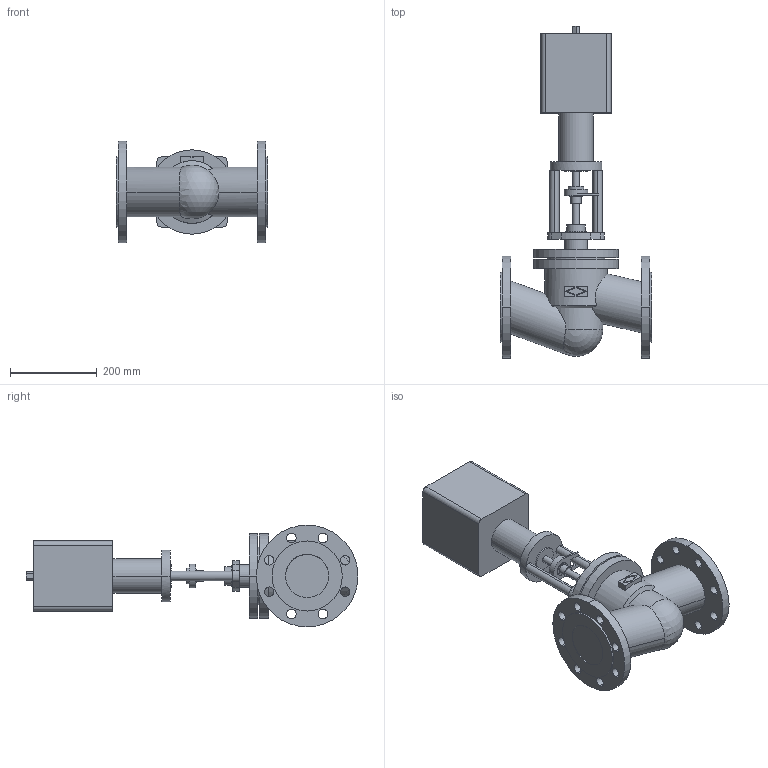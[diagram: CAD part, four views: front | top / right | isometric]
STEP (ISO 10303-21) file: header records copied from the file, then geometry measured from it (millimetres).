
FILE_DESCRIPTION( ( '' ), '1' );
FILE_NAME( 'F:/DE-SHS/TB/OR/04-Sonstiges/daten/files_3d/c000000781.stp', '2014-11-04T12:59:54', ( '' ), ( '' ), ' ', ' ', ' ' );
FILE_SCHEMA( ( 'CONFIG_CONTROL_DESIGN' ) );
Length unit declared in the file: millimetre
Products named in the file (2): 1; 2
Bounding box: 350 x 767.5 x 235 mm (x, y, z)
Volume: 13600987.4 mm3; surface area: 710192.9 mm2
Topology: 2 solids, 2 shells, 166 faces, 408 edges, 270 vertices
Faces by surface type: cylinder 94, plane 69, cone 2, sphere 1
Entity records: 5639 total; most frequent: CARTESIAN_POINT 1384, DIRECTION 929, ORIENTED_EDGE 812, EDGE_CURVE 406, AXIS2_PLACEMENT_3D 369, VERTEX_POINT 270, EDGE_LOOP 224, CIRCLE 197
